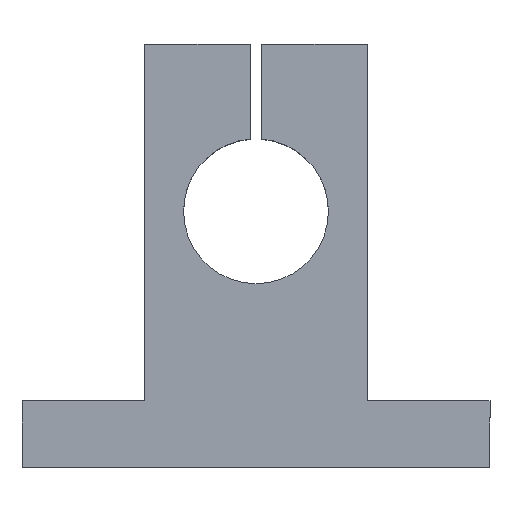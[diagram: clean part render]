
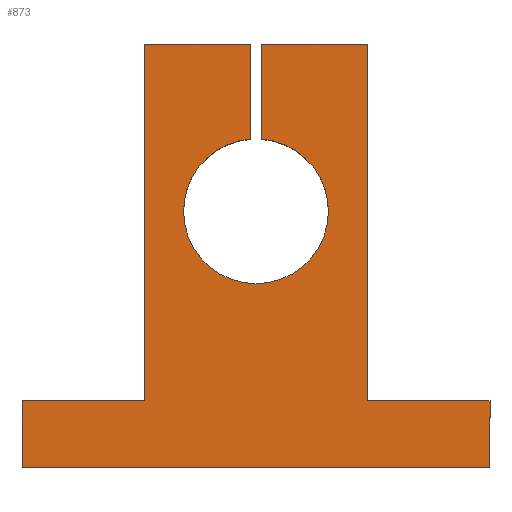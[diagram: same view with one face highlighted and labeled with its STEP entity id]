
A CAD part, top view. The second image highlights one B-rep face of the part: STEP entity #873.
In plain terms, the highlighted planar face has unit normal (0, 0, 1).
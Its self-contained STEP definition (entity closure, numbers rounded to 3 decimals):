
#51=CARTESIAN_POINT('',(27.802,20.903,14.));
#52=VERTEX_POINT('',#51);
#59=CARTESIAN_POINT('',(21.802,27.384,14.));
#60=VERTEX_POINT('',#59);
#61=CARTESIAN_POINT('',(21.302,20.903,14.));
#62=DIRECTION('',(0.0,0.0,-1.0));
#63=DIRECTION('',(-1.0,0.0,0.0));
#64=AXIS2_PLACEMENT_3D('',#61,#62,#63);
#65=CIRCLE('',#64,6.5);
#66=EDGE_CURVE('',#60,#52,#65,.T.);
#91=CARTESIAN_POINT('',(14.802,20.903,14.));
#92=VERTEX_POINT('',#91);
#101=CARTESIAN_POINT('',(21.302,20.903,14.));
#102=DIRECTION('',(0.0,0.0,-1.0));
#103=DIRECTION('',(-1.0,0.0,0.0));
#104=AXIS2_PLACEMENT_3D('',#101,#102,#103);
#105=CIRCLE('',#104,6.5);
#106=EDGE_CURVE('',#52,#92,#105,.T.);
#590=CARTESIAN_POINT('',(20.802,27.384,14.));
#591=VERTEX_POINT('',#590);
#606=CARTESIAN_POINT('',(20.802,35.903,14.));
#607=VERTEX_POINT('',#606);
#614=CARTESIAN_POINT('',(20.802,27.384,14.));
#615=DIRECTION('',(0.0,1.0,0.0));
#616=VECTOR('',#615,8.519);
#617=LINE('',#614,#616);
#618=EDGE_CURVE('',#591,#607,#617,.T.);
#633=CARTESIAN_POINT('',(21.802,35.903,14.));
#634=VERTEX_POINT('',#633);
#635=CARTESIAN_POINT('',(21.802,35.903,14.));
#636=DIRECTION('',(0.0,-1.0,0.0));
#637=VECTOR('',#636,8.519);
#638=LINE('',#635,#637);
#639=EDGE_CURVE('',#634,#60,#638,.T.);
#676=CARTESIAN_POINT('',(11.302,35.903,14.));
#677=VERTEX_POINT('',#676);
#684=CARTESIAN_POINT('',(11.302,35.903,14.));
#685=DIRECTION('',(1.0,0.0,0.0));
#686=VECTOR('',#685,9.5);
#687=LINE('',#684,#686);
#688=EDGE_CURVE('',#677,#607,#687,.T.);
#699=CARTESIAN_POINT('',(31.302,35.903,14.));
#700=VERTEX_POINT('',#699);
#701=CARTESIAN_POINT('',(21.802,35.903,14.));
#702=DIRECTION('',(1.0,0.0,0.0));
#703=VECTOR('',#702,9.5);
#704=LINE('',#701,#703);
#705=EDGE_CURVE('',#634,#700,#704,.T.);
#799=CARTESIAN_POINT('',(21.302,12.503,14.));
#800=DIRECTION('',(0.0,0.0,1.0));
#801=DIRECTION('',(1.0,0.0,0.0));
#802=AXIS2_PLACEMENT_3D('',#799,#800,#801);
#803=PLANE('',#802);
#804=ORIENTED_EDGE('',*,*,#618,.T.);
#805=ORIENTED_EDGE('',*,*,#688,.F.);
#806=CARTESIAN_POINT('',(11.302,3.903,14.));
#807=VERTEX_POINT('',#806);
#808=CARTESIAN_POINT('',(11.302,3.903,14.));
#809=DIRECTION('',(0.0,1.0,0.0));
#810=VECTOR('',#809,32.0);
#811=LINE('',#808,#810);
#812=EDGE_CURVE('',#807,#677,#811,.T.);
#813=ORIENTED_EDGE('',*,*,#812,.F.);
#814=CARTESIAN_POINT('',(0.302,3.903,14.));
#815=VERTEX_POINT('',#814);
#816=CARTESIAN_POINT('',(0.302,3.903,14.));
#817=DIRECTION('',(1.0,0.0,0.0));
#818=VECTOR('',#817,11.);
#819=LINE('',#816,#818);
#820=EDGE_CURVE('',#815,#807,#819,.T.);
#821=ORIENTED_EDGE('',*,*,#820,.F.);
#822=CARTESIAN_POINT('',(0.302,-2.097,14.));
#823=VERTEX_POINT('',#822);
#824=CARTESIAN_POINT('',(0.302,-2.097,14.));
#825=DIRECTION('',(0.0,1.0,0.0));
#826=VECTOR('',#825,6.);
#827=LINE('',#824,#826);
#828=EDGE_CURVE('',#823,#815,#827,.T.);
#829=ORIENTED_EDGE('',*,*,#828,.F.);
#830=CARTESIAN_POINT('',(42.302,-2.097,14.));
#831=VERTEX_POINT('',#830);
#832=CARTESIAN_POINT('',(42.302,-2.097,14.));
#833=DIRECTION('',(-1.0,0.0,0.0));
#834=VECTOR('',#833,42.);
#835=LINE('',#832,#834);
#836=EDGE_CURVE('',#831,#823,#835,.T.);
#837=ORIENTED_EDGE('',*,*,#836,.F.);
#838=CARTESIAN_POINT('',(42.302,3.903,14.));
#839=VERTEX_POINT('',#838);
#840=CARTESIAN_POINT('',(42.302,3.903,14.));
#841=DIRECTION('',(0.0,-1.0,0.0));
#842=VECTOR('',#841,6.);
#843=LINE('',#840,#842);
#844=EDGE_CURVE('',#839,#831,#843,.T.);
#845=ORIENTED_EDGE('',*,*,#844,.F.);
#846=CARTESIAN_POINT('',(31.302,3.903,14.));
#847=VERTEX_POINT('',#846);
#848=CARTESIAN_POINT('',(31.302,3.903,14.));
#849=DIRECTION('',(1.0,0.0,0.0));
#850=VECTOR('',#849,11.);
#851=LINE('',#848,#850);
#852=EDGE_CURVE('',#847,#839,#851,.T.);
#853=ORIENTED_EDGE('',*,*,#852,.F.);
#854=CARTESIAN_POINT('',(31.302,35.903,14.));
#855=DIRECTION('',(0.0,-1.0,0.0));
#856=VECTOR('',#855,32.0);
#857=LINE('',#854,#856);
#858=EDGE_CURVE('',#700,#847,#857,.T.);
#859=ORIENTED_EDGE('',*,*,#858,.F.);
#860=ORIENTED_EDGE('',*,*,#705,.F.);
#861=ORIENTED_EDGE('',*,*,#639,.T.);
#862=ORIENTED_EDGE('',*,*,#66,.T.);
#863=ORIENTED_EDGE('',*,*,#106,.T.);
#864=CARTESIAN_POINT('',(21.302,20.903,14.));
#865=DIRECTION('',(0.0,0.0,-1.0));
#866=DIRECTION('',(-1.0,0.0,0.0));
#867=AXIS2_PLACEMENT_3D('',#864,#865,#866);
#868=CIRCLE('',#867,6.5);
#869=EDGE_CURVE('',#92,#591,#868,.T.);
#870=ORIENTED_EDGE('',*,*,#869,.T.);
#871=EDGE_LOOP('',(#804,#805,#813,#821,#829,#837,#845,#853,#859,#860,#861,#862,#863,#870));
#872=FACE_OUTER_BOUND('',#871,.T.);
#873=ADVANCED_FACE('',(#872),#803,.T.);
